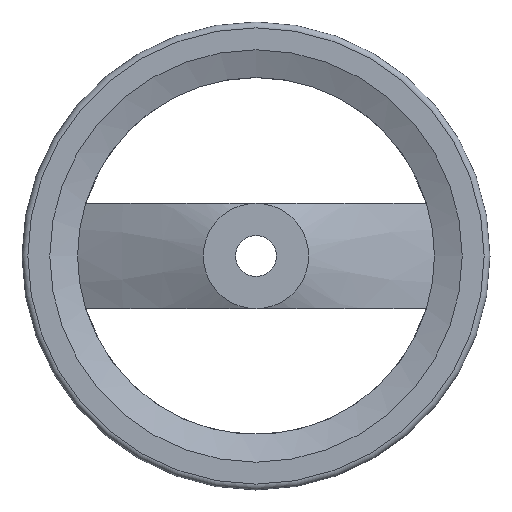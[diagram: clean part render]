
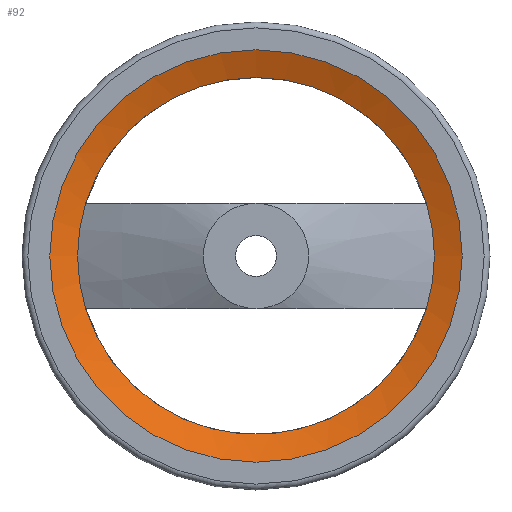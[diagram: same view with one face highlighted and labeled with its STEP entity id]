
A CAD part, left-side view. The second image highlights one B-rep face of the part: STEP entity #92.
In plain terms, the highlighted conical face has half-angle 68.547 degrees and reference radius 61 mm.
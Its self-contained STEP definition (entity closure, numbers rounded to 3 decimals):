
#92 = ADVANCED_FACE( '', ( #141, #142 ), #143, .F. );
#141 = FACE_OUTER_BOUND( '', #192, .T. );
#142 = FACE_BOUND( '', #193, .T. );
#143 = CONICAL_SURFACE( '', #194, 61., 1.196 );
#192 = EDGE_LOOP( '', ( #305 ) );
#193 = EDGE_LOOP( '', ( #306, #307, #308, #309 ) );
#194 = AXIS2_PLACEMENT_3D( '', #310, #311, #312 );
#305 = ORIENTED_EDGE( '', *, *, #344, .T. );
#306 = ORIENTED_EDGE( '', *, *, #332, .F. );
#307 = ORIENTED_EDGE( '', *, *, #350, .T. );
#308 = ORIENTED_EDGE( '', *, *, #338, .F. );
#309 = ORIENTED_EDGE( '', *, *, #349, .T. );
#310 = CARTESIAN_POINT( '', ( 24.733, 0., 0. ) );
#311 = DIRECTION( '', ( -1., 0., 0. ) );
#312 = DIRECTION( '', ( 0., 0., 1. ) );
#332 = EDGE_CURVE( '', #360, #366, #377, .T. );
#338 = EDGE_CURVE( '', #372, #354, #386, .T. );
#344 = EDGE_CURVE( '', #395, #395, #396, .T. );
#349 = EDGE_CURVE( '', #372, #366, #404, .F. );
#350 = EDGE_CURVE( '', #360, #354, #405, .F. );
#354 = VERTEX_POINT( '', #410 );
#360 = VERTEX_POINT( '', #451 );
#366 = VERTEX_POINT( '', #496 );
#372 = VERTEX_POINT( '', #537 );
#377 = CIRCLE( '', #581, 61. );
#386 = CIRCLE( '', #590, 61. );
#395 = VERTEX_POINT( '', #599 );
#396 = CIRCLE( '', #600, 70.5 );
#404 = CIRCLE( '', #608, 61. );
#405 = CIRCLE( '', #609, 61. );
#410 = CARTESIAN_POINT( '', ( 24.733, 58.284, -18. ) );
#451 = CARTESIAN_POINT( '', ( 24.733, -58.284, -18. ) );
#496 = CARTESIAN_POINT( '', ( 24.733, -58.284, 18. ) );
#537 = CARTESIAN_POINT( '', ( 24.733, 58.284, 18. ) );
#581 = AXIS2_PLACEMENT_3D( '', #617, #618, #619 );
#590 = AXIS2_PLACEMENT_3D( '', #635, #636, #637 );
#599 = CARTESIAN_POINT( '', ( 21., 0., 70.5 ) );
#600 = AXIS2_PLACEMENT_3D( '', #653, #654, #655 );
#608 = AXIS2_PLACEMENT_3D( '', #668, #669, #670 );
#609 = AXIS2_PLACEMENT_3D( '', #671, #672, #673 );
#617 = CARTESIAN_POINT( '', ( 24.733, 0., 0. ) );
#618 = DIRECTION( '', ( -1., 0., 0. ) );
#619 = DIRECTION( '', ( 0., 0., 1. ) );
#635 = CARTESIAN_POINT( '', ( 24.733, 0., 0. ) );
#636 = DIRECTION( '', ( -1., 0., 0. ) );
#637 = DIRECTION( '', ( 0., 0., 1. ) );
#653 = CARTESIAN_POINT( '', ( 21., 0., 0. ) );
#654 = DIRECTION( '', ( -1., 0., 0. ) );
#655 = DIRECTION( '', ( 0., 0., 1. ) );
#668 = CARTESIAN_POINT( '', ( 24.733, 0., 0. ) );
#669 = DIRECTION( '', ( -1., 0., 0. ) );
#670 = DIRECTION( '', ( 0., 0., 1. ) );
#671 = CARTESIAN_POINT( '', ( 24.733, 0., 0. ) );
#672 = DIRECTION( '', ( -1., 0., 0. ) );
#673 = DIRECTION( '', ( 0., 0., 1. ) );
